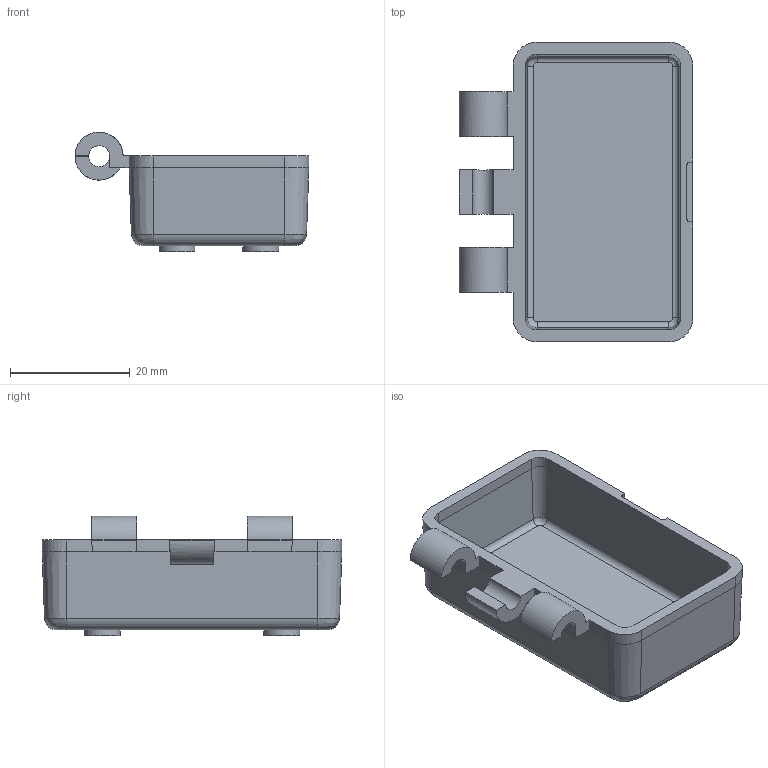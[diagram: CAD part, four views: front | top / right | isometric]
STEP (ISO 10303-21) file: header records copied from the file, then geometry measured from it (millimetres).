
FILE_DESCRIPTION(/* description */ (''),/* implementation_level */ '2;1');
FILE_NAME(/* name */ 'E:\塑料模具\现代模具制造技术\迷你收纳盒\迷你收纳盒下盖.stp',/* time_stamp */ '2021-12-03T11:22:10+08:00',/* author */ ('Administrator'),/* organization */ (''),/* preprocessor_version */ 'ST-DEVELOPER v18',/* originating_system */ 'Autodesk Inventor 2020',/* authorisation */ '');
FILE_SCHEMA (('AUTOMOTIVE_DESIGN { 1 0 10303 214 3 1 1 }'));
Length unit declared in the file: millimetre
Products named in the file (1): 上盖
Bounding box: 39 x 50 x 19.97 mm (x, y, z)
Volume: 7164 mm3; surface area: 7567.4 mm2
Topology: 1 solids, 1 shells, 97 faces, 220 edges, 134 vertices
Faces by surface type: plane 49, cylinder 32, cone 8, bspline 8
Full cylindrical faces by diameter (mm): 4 x4, 6 x4
Entity records: 2881 total; most frequent: CARTESIAN_POINT 516, DIRECTION 480, ORIENTED_EDGE 440, EDGE_CURVE 220, AXIS2_PLACEMENT_3D 170, LINE 140, VECTOR 140, VERTEX_POINT 134
